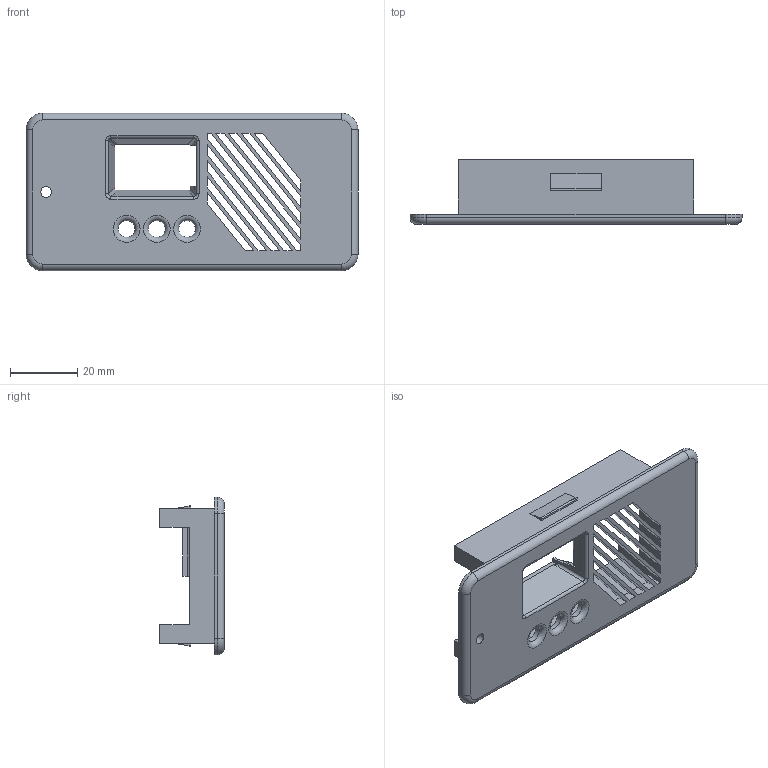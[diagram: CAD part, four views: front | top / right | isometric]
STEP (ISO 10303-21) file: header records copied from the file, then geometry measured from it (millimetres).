
FILE_DESCRIPTION(/* description */ (''),/* implementation_level */ '2;1');
FILE_NAME(/* name */ 'D:/Down/Druck/Tisch/PWM-DeckelV19.step',/* time_stamp */ '2022-02-09T16:43:29+07:00',/* author */ (''),/* organization */ (''),/* preprocessor_version */ 'ST-DEVELOPER v18.1',/* originating_system */ 'Autodesk Translation Framework v10.13.0.1454',/* authorisation */ '');
FILE_SCHEMA (('AUTOMOTIVE_DESIGN { 1 0 10303 214 3 1 1 }'));
Length unit declared in the file: millimetre
Products named in the file (1): Deckel
Bounding box: 99 x 19.3 x 47 mm (x, y, z)
Volume: 14874 mm3; surface area: 17789 mm2
Topology: 4 solids, 4 shells, 147 faces, 386 edges, 248 vertices
Faces by surface type: plane 112, cylinder 24, torus 7, bspline 4
Full cylindrical faces by diameter (mm): 3.2 x1, 5 x3
Entity records: 4634 total; most frequent: CARTESIAN_POINT 878, ORIENTED_EDGE 772, DIRECTION 746, EDGE_CURVE 386, LINE 314, VECTOR 314, VERTEX_POINT 248, AXIS2_PLACEMENT_3D 216
